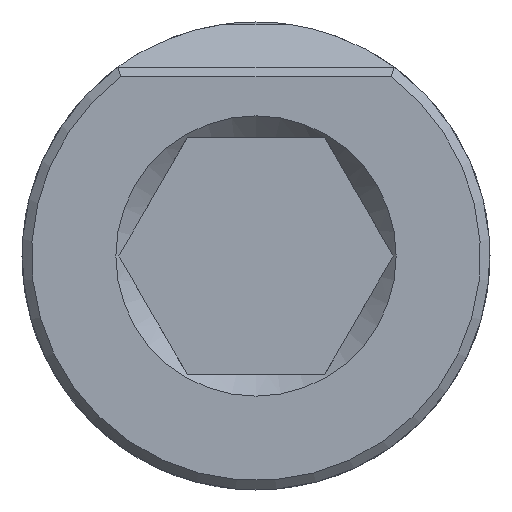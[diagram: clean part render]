
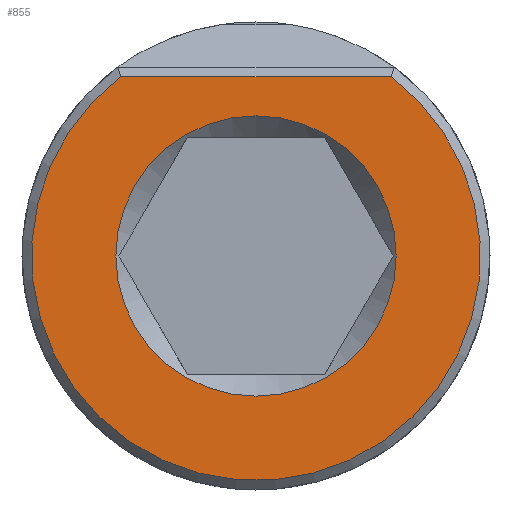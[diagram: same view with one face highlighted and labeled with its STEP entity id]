
A CAD part, front view. The second image highlights one B-rep face of the part: STEP entity #855.
In plain terms, the highlighted planar face has unit normal (0, -1, 0).
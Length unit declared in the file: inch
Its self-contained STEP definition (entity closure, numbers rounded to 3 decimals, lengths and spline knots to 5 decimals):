
#73=FACE_BOUND('',#216,.T.);
#86=PLANE('',#986);
#152=FACE_OUTER_BOUND('',#215,.T.);
#215=EDGE_LOOP('',(#735,#736));
#216=EDGE_LOOP('',(#737));
#260=LINE('',#1600,#306);
#306=VECTOR('',#1218,0.3937);
#368=CIRCLE('',#984,0.4725);
#369=CIRCLE('',#987,0.295);
#427=VERTEX_POINT('',#1587);
#428=VERTEX_POINT('',#1588);
#429=VERTEX_POINT('',#1602);
#533=EDGE_CURVE('',#427,#428,#368,.T.);
#537=EDGE_CURVE('',#428,#427,#260,.T.);
#538=EDGE_CURVE('',#429,#429,#369,.T.);
#735=ORIENTED_EDGE('',*,*,#533,.F.);
#736=ORIENTED_EDGE('',*,*,#537,.F.);
#737=ORIENTED_EDGE('',*,*,#538,.F.);
#855=ADVANCED_FACE('',(#152,#73),#86,.T.);
#984=AXIS2_PLACEMENT_3D('',#1589,#1213,#1214);
#986=AXIS2_PLACEMENT_3D('',#1601,#1219,#1220);
#987=AXIS2_PLACEMENT_3D('',#1603,#1221,#1222);
#1213=DIRECTION('center_axis',(0.,1.,0.));
#1214=DIRECTION('ref_axis',(0.,0.,-1.));
#1218=DIRECTION('',(1.,0.,0.));
#1219=DIRECTION('center_axis',(0.,-1.,0.));
#1220=DIRECTION('ref_axis',(0.,0.,-1.));
#1221=DIRECTION('center_axis',(0.,-1.,0.));
#1222=DIRECTION('ref_axis',(0.,0.,1.));
#1587=CARTESIAN_POINT('',(0.28417,0.,0.3775));
#1588=CARTESIAN_POINT('',(-0.28417,0.,0.3775));
#1589=CARTESIAN_POINT('Origin',(0.,0.,0.));
#1600=CARTESIAN_POINT('',(0.26848,0.,0.3775));
#1601=CARTESIAN_POINT('Origin',(0.,0.,-0.25));
#1602=CARTESIAN_POINT('',(0.,0.,-0.295));
#1603=CARTESIAN_POINT('Origin',(0.,0.,0.));
